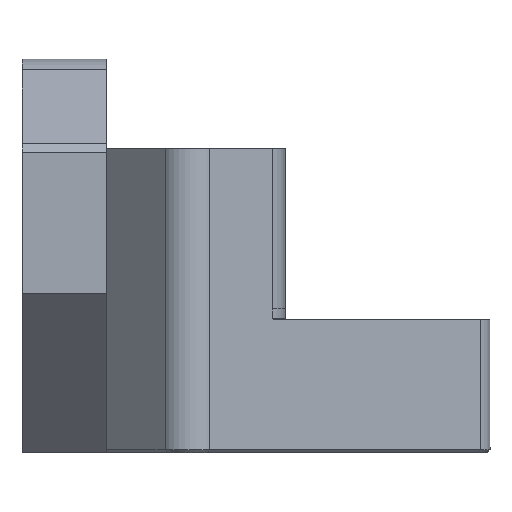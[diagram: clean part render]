
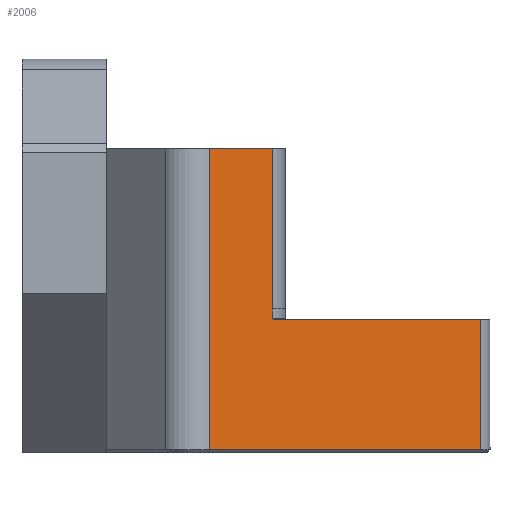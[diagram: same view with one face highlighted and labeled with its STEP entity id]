
A CAD part, left-side view. The second image highlights one B-rep face of the part: STEP entity #2006.
In plain terms, the highlighted planar face has unit normal (-0.707, -0.707, 0).
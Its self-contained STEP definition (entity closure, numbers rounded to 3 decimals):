
#251=FACE_OUTER_BOUND('',#363,.T.);
#363=EDGE_LOOP('',(#1576,#1577,#1578,#1579,#1580,#1581,#1582,#1583,#1584));
#509=LINE('',#3989,#691);
#529=LINE('',#4046,#711);
#537=LINE('',#4067,#719);
#538=LINE('',#4070,#720);
#539=LINE('',#4072,#721);
#540=LINE('',#4074,#722);
#541=LINE('',#4076,#723);
#542=LINE('',#4078,#724);
#543=LINE('',#4079,#725);
#691=VECTOR('',#2427,10.);
#711=VECTOR('',#2481,10.);
#719=VECTOR('',#2501,10.);
#720=VECTOR('',#2506,10.);
#721=VECTOR('',#2507,10.);
#722=VECTOR('',#2508,10.);
#723=VECTOR('',#2509,10.);
#724=VECTOR('',#2510,10.);
#725=VECTOR('',#2511,10.);
#907=VERTEX_POINT('',#3986);
#908=VERTEX_POINT('',#3988);
#925=VERTEX_POINT('',#4036);
#927=VERTEX_POINT('',#4042);
#935=VERTEX_POINT('',#4066);
#936=VERTEX_POINT('',#4071);
#937=VERTEX_POINT('',#4073);
#938=VERTEX_POINT('',#4075);
#939=VERTEX_POINT('',#4077);
#1143=EDGE_CURVE('',#908,#907,#509,.F.);
#1172=EDGE_CURVE('',#925,#927,#529,.T.);
#1182=EDGE_CURVE('',#927,#935,#537,.T.);
#1184=EDGE_CURVE('',#908,#925,#538,.T.);
#1185=EDGE_CURVE('',#907,#936,#539,.T.);
#1186=EDGE_CURVE('',#936,#937,#540,.T.);
#1187=EDGE_CURVE('',#938,#937,#541,.T.);
#1188=EDGE_CURVE('',#939,#938,#542,.T.);
#1189=EDGE_CURVE('',#935,#939,#543,.T.);
#1576=ORIENTED_EDGE('',*,*,#1172,.F.);
#1577=ORIENTED_EDGE('',*,*,#1184,.F.);
#1578=ORIENTED_EDGE('',*,*,#1143,.T.);
#1579=ORIENTED_EDGE('',*,*,#1185,.T.);
#1580=ORIENTED_EDGE('',*,*,#1186,.T.);
#1581=ORIENTED_EDGE('',*,*,#1187,.F.);
#1582=ORIENTED_EDGE('',*,*,#1188,.F.);
#1583=ORIENTED_EDGE('',*,*,#1189,.F.);
#1584=ORIENTED_EDGE('',*,*,#1182,.F.);
#1931=PLANE('',#2151);
#2006=ADVANCED_FACE('',(#251),#1931,.T.);
#2151=AXIS2_PLACEMENT_3D('',#4069,#2504,#2505);
#2427=DIRECTION('',(0.707,-0.707,0.));
#2481=DIRECTION('',(-0.707,0.707,0.));
#2501=DIRECTION('',(0.,0.,1.));
#2504=DIRECTION('center_axis',(-0.707,-0.707,0.));
#2505=DIRECTION('ref_axis',(0.707,-0.707,0.));
#2506=DIRECTION('',(0.,0.,-1.));
#2507=DIRECTION('',(0.,0.,1.));
#2508=DIRECTION('',(-0.707,0.707,0.));
#2509=DIRECTION('',(0.,0.,-1.));
#2510=DIRECTION('',(0.,0.,-1.));
#2511=DIRECTION('',(0.707,-0.707,0.));
#3986=CARTESIAN_POINT('',(8.88,40.192,-20.17));
#3988=CARTESIAN_POINT('',(22.898,26.174,-20.17));
#3989=CARTESIAN_POINT('',(9.553,39.519,-20.17));
#4036=CARTESIAN_POINT('',(22.898,26.174,-28.97));
#4042=CARTESIAN_POINT('',(4.55,44.522,-28.97));
#4046=CARTESIAN_POINT('',(10.867,38.206,-28.97));
#4066=CARTESIAN_POINT('',(4.55,44.522,-8.582));
#4067=CARTESIAN_POINT('',(4.55,44.522,-17.82));
#4069=CARTESIAN_POINT('Origin',(4.55,44.522,-28.87));
#4070=CARTESIAN_POINT('',(22.898,26.174,-27.223));
#4071=CARTESIAN_POINT('',(8.88,40.192,-20.07));
#4072=CARTESIAN_POINT('',(8.88,40.192,-19.27));
#4073=CARTESIAN_POINT('',(8.775,40.298,-20.07));
#4074=CARTESIAN_POINT('',(6.651,42.421,-20.07));
#4075=CARTESIAN_POINT('',(8.775,40.298,-19.42));
#4076=CARTESIAN_POINT('',(8.775,40.298,-19.42));
#4077=CARTESIAN_POINT('',(8.775,40.298,-8.582));
#4078=CARTESIAN_POINT('',(8.775,40.298,-23.598));
#4079=CARTESIAN_POINT('',(10.867,38.206,-8.582));
